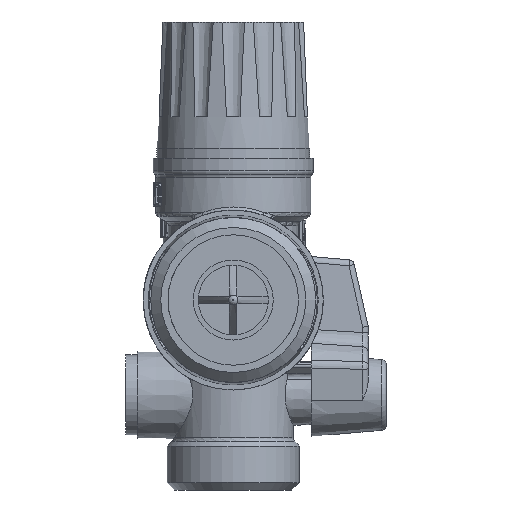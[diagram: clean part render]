
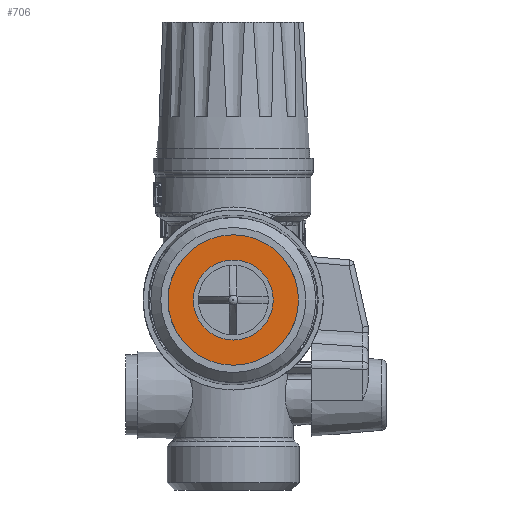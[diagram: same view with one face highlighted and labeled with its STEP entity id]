
A CAD part, front view. The second image highlights one B-rep face of the part: STEP entity #706.
In plain terms, the highlighted planar face has unit normal (0, -1, 0).
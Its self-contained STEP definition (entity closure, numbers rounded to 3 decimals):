
#706=ADVANCED_FACE('',(#14434,#14436),#14438,.T.);
#14434=FACE_BOUND('',#14435,.T.);
#14435=EDGE_LOOP('',(#19560));
#14436=FACE_BOUND('',#14437,.T.);
#14437=EDGE_LOOP('',(#19561));
#14438=PLANE('',#14439);
#14439=AXIS2_PLACEMENT_3D('',#14440,#14441,#14442);
#14440=CARTESIAN_POINT('',(0.,-59.7,0.));
#14441=DIRECTION('',(0.,-1.,0.));
#14442=DIRECTION('',(1.,0.,0.));
#19560=ORIENTED_EDGE('',*,*,#22030,.T.);
#19561=ORIENTED_EDGE('',*,*,#22106,.F.);
#22030=EDGE_CURVE('',#25341,#25341,#25342,.T.);
#22106=EDGE_CURVE('',#25483,#25483,#25484,.F.);
#25341=VERTEX_POINT('',#46109);
#25342=CIRCLE('',#46110,13.05);
#25483=VERTEX_POINT('',#46751);
#25484=CIRCLE('',#46752,8.);
#46109=CARTESIAN_POINT('',(13.05,-59.7,0.));
#46110=AXIS2_PLACEMENT_3D('',#46111,#46112,#46113);
#46111=CARTESIAN_POINT('',(0.,-59.7,0.));
#46112=DIRECTION('',(0.,-1.,0.));
#46113=DIRECTION('',(1.,0.,0.));
#46751=CARTESIAN_POINT('',(0.,-59.7,8.));
#46752=AXIS2_PLACEMENT_3D('',#46753,#46754,#46755);
#46753=CARTESIAN_POINT('',(0.,-59.7,0.));
#46754=DIRECTION('',(0.,1.,0.));
#46755=DIRECTION('',(0.,0.,1.));
